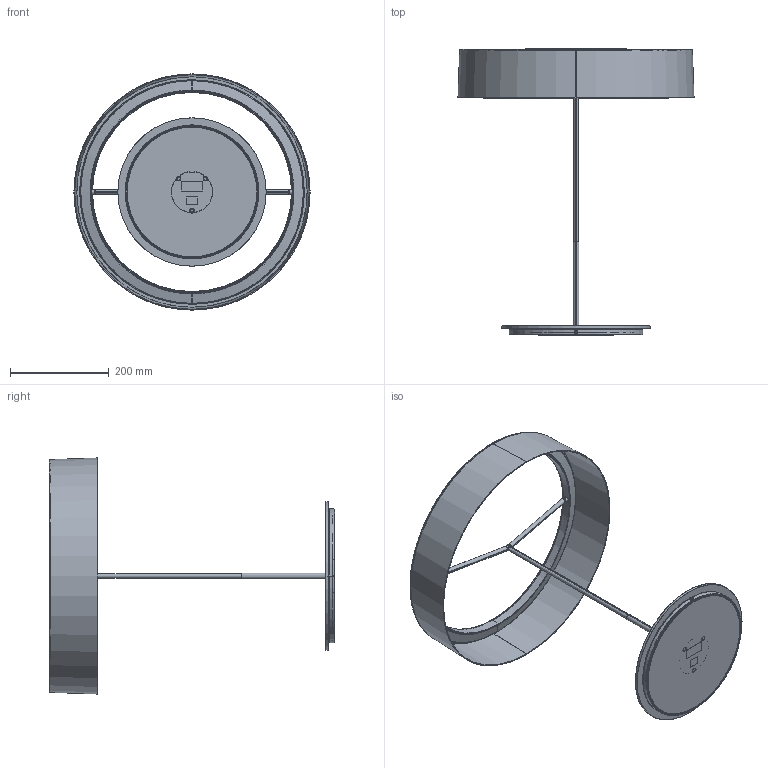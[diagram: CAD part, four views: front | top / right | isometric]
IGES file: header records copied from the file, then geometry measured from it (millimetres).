
Start section: SolidWorks IGES file using analytic representation for surfaces
Global section: file name: C:\SANTACOLE_PDM\Proyectos Catálogo\PROD-P10-018 -- LLUM BASIC\6_Técnico comercial\3D\Sin L.IGS; native system: SolidWorks 2019; preprocessor: SolidWorks 2019; author: aina.morell; date: 200402.095913; units: millimetre
Bounding box: 477.68 x 578 x 477.68 mm (x, y, z)
Surface area: 1283493.8 mm2 (no closed solid volume)
Topology: 0 solids, 0 shells, 1244 faces, 16180 edges, 16128 vertices
Faces by surface type: bspline 703, revolution 541
